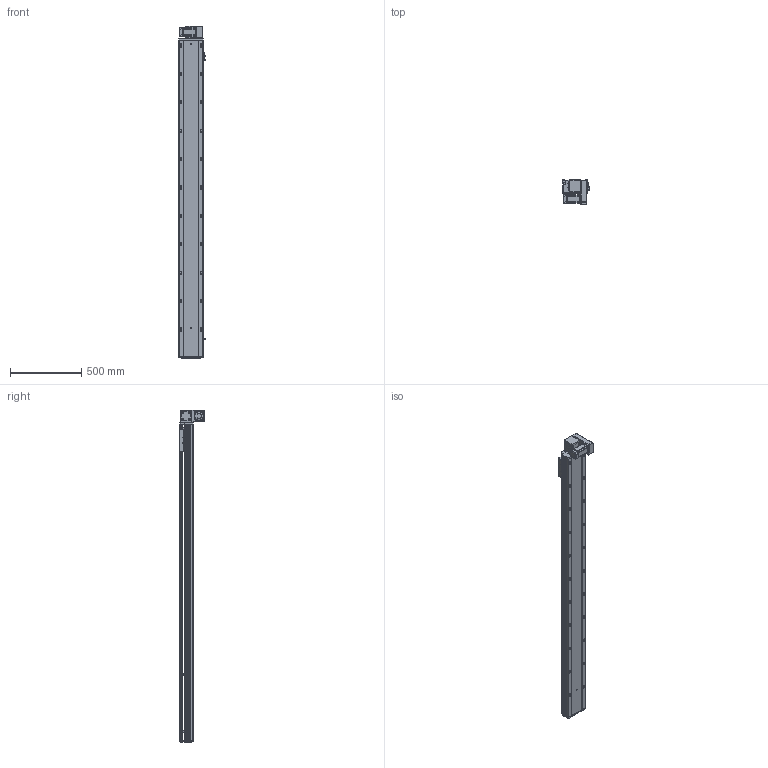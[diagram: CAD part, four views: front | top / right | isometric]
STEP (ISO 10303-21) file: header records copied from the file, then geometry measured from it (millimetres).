
FILE_DESCRIPTION (( 'STEP AP203' ), '1' );
FILE_NAME ('RY170-T-300-DR-P400W.SLDASM_1950.step', '2021-03-01T08:24:50', ( '盈信电脑' ), ( '东莞市道滘镇水果街19号' ), 'SwSTEP 2.0', 'SolidWorks 2012', '' );
FILE_SCHEMA (( 'CONFIG_CONTROL_DESIGN' ));
Length unit declared in the file: millimetre
Products named in the file (19): RY170-T-300-DR-P400W.SLDASM_1950; 15; RY170-T-呴雄粣揤踡啣; 滅袉蝶18-10; RY170-T肮祭謫裔啣; RY170-T蹟翐M4; RY120-T主同步轮轴承压盖; RY170-T肮祭湍揤踡輸2; RY170-T肮祭湍揤踡輸1; RY170同步轮电机安装板(400W); RY170肮祭謫萇儂欶; RY170外置感应片(200共用）; RY170翋肮祭謫釱; RY170肮祭謫ヶ裔啣; 覜茼ん672; RY170-T-300肮祭謫倰第裔啣-DR_1950; RY170綴裔啣; RY170肮祭湍臏賑輸; RY170-T-300肮祭謫倰第菁釱-DR_1950
Assembly tree (23 placements, depth 2):
  RY170-T-300-DR-P400W.SLDASM_1950
    RY170-T-300肮祭謫倰第菁釱-DR_1950
    RY170肮祭湍臏賑輸
    RY170-T-300肮祭謫倰第裔啣-DR_1950
    RY170綴裔啣
    覜茼ん672  x3
    RY170外置感应片(200共用）
    RY170肮祭謫ヶ裔啣
    RY170翋肮祭謫釱
    RY170同步轮电机安装板(400W)
    RY170肮祭謫萇儂欶
    RY170-T肮祭湍揤踡輸1  x2
    RY170-T肮祭湍揤踡輸2  x2
    RY120-T主同步轮轴承压盖
    RY170-T肮祭謫裔啣
    RY170-T蹟翐M4
    滅袉蝶18-10  x2
    RY170-T-呴雄粣揤踡啣
    15
Bounding box: 183.7 x 178 x 2338 mm (x, y, z)
Volume: 10881482.5 mm3; surface area: 3746292.8 mm2
Topology: 23 solids, 23 shells, 2986 faces, 8350 edges, 5325 vertices
Faces by surface type: cylinder 1384, plane 1272, cone 300, bspline 30
Entity records: 90573 total; most frequent: CARTESIAN_POINT 20783, ORIENTED_EDGE 14280, DIRECTION 13964, EDGE_CURVE 7140, AXIS2_PLACEMENT_3D 4956, VERTEX_POINT 4681, VECTOR 4052, LINE 4052
